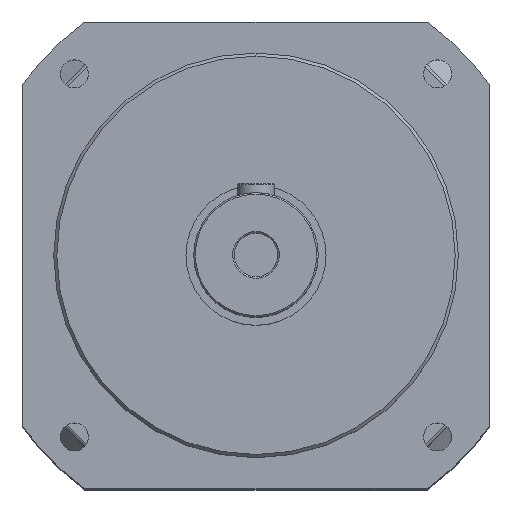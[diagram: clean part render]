
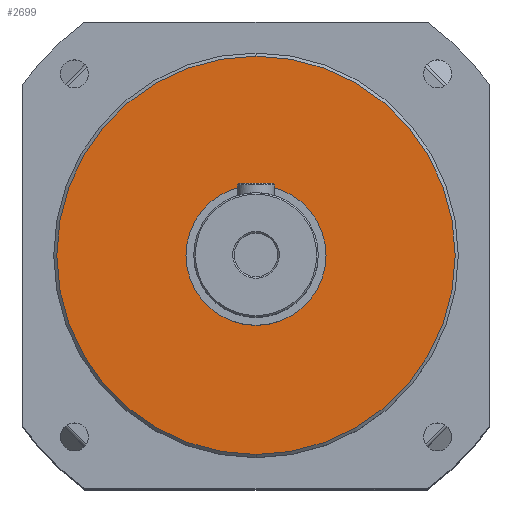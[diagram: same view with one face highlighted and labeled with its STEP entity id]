
A CAD part, top view. The second image highlights one B-rep face of the part: STEP entity #2699.
In plain terms, the highlighted planar face has unit normal (0, 0, 1).
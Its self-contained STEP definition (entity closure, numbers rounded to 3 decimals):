
#1900=CARTESIAN_POINT('',(0.,0.,30.));
#1901=DIRECTION('',(0.,0.,1.));
#1902=DIRECTION('',(0.,1.,0.));
#1903=AXIS2_PLACEMENT_3D('',#1900,#1901,#1902);
#1905=CARTESIAN_POINT('',(0.,0.,30.));
#1906=DIRECTION('',(0.,0.,1.));
#1907=DIRECTION('',(0.,-1.,0.));
#1908=AXIS2_PLACEMENT_3D('',#1905,#1906,#1907);
#1910=CARTESIAN_POINT('',(0.,0.,30.));
#1911=DIRECTION('',(0.,0.,1.));
#1912=DIRECTION('',(0.,-1.,0.));
#1913=AXIS2_PLACEMENT_3D('',#1910,#1911,#1912);
#1915=CARTESIAN_POINT('',(0.,0.,30.));
#1916=DIRECTION('',(0.,0.,1.));
#1917=DIRECTION('',(0.,1.,0.));
#1918=AXIS2_PLACEMENT_3D('',#1915,#1916,#1917);
#2419=CARTESIAN_POINT('',(0.,20.,30.));
#2420=CARTESIAN_POINT('',(0.,-20.,30.));
#2421=VERTEX_POINT('',#2419);
#2422=VERTEX_POINT('',#2420);
#2527=CARTESIAN_POINT('',(0.,-64.,30.));
#2528=CARTESIAN_POINT('',(0.,64.,30.));
#2529=VERTEX_POINT('',#2527);
#2530=VERTEX_POINT('',#2528);
#2683=CARTESIAN_POINT('',(0.,0.,30.));
#2684=DIRECTION('',(0.,0.,-1.));
#2685=DIRECTION('',(0.,-1.,0.));
#2686=AXIS2_PLACEMENT_3D('',#2683,#2684,#2685);
#2687=PLANE('',#2686);
#2689=ORIENTED_EDGE('',*,*,#2688,.F.);
#2690=ORIENTED_EDGE('',*,*,#2673,.F.);
#2691=EDGE_LOOP('',(#2689,#2690));
#2692=FACE_OUTER_BOUND('',#2691,.F.);
#2694=ORIENTED_EDGE('',*,*,#2693,.T.);
#2696=ORIENTED_EDGE('',*,*,#2695,.T.);
#2697=EDGE_LOOP('',(#2694,#2696));
#2698=FACE_BOUND('',#2697,.F.);
#1904=CIRCLE('',#1903,20.);
#1909=CIRCLE('',#1908,20.);
#1914=CIRCLE('',#1913,64.);
#1919=CIRCLE('',#1918,64.);
#2673=EDGE_CURVE('',#2530,#2529,#1919,.T.);
#2688=EDGE_CURVE('',#2529,#2530,#1914,.T.);
#2693=EDGE_CURVE('',#2421,#2422,#1904,.T.);
#2695=EDGE_CURVE('',#2422,#2421,#1909,.T.);
#2699=ADVANCED_FACE('',(#2692,#2698),#2687,.F.);
